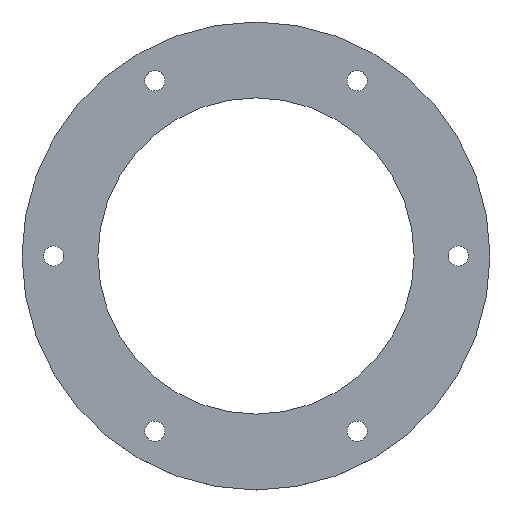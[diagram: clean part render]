
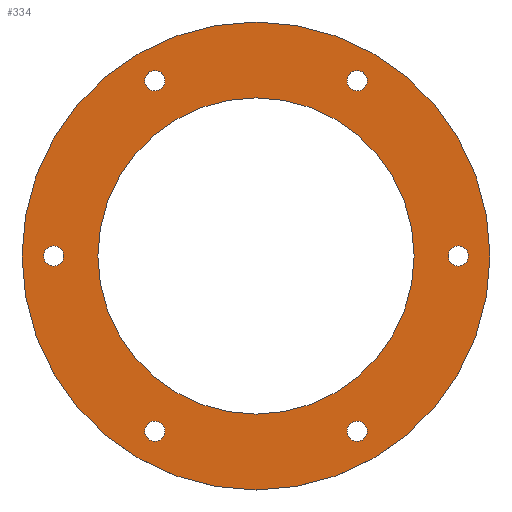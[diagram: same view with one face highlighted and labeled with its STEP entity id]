
A CAD part, top view. The second image highlights one B-rep face of the part: STEP entity #334.
In plain terms, the highlighted planar face has unit normal (0, 0, 1).
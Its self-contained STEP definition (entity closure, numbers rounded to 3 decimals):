
#24 = VERTEX_POINT('',#25);
#25 = CARTESIAN_POINT('',(-37.,0.,18.));
#32 = CYLINDRICAL_SURFACE('',#33,37.);
#33 = AXIS2_PLACEMENT_3D('',#34,#35,#36);
#34 = CARTESIAN_POINT('',(0.,0.,16.));
#35 = DIRECTION('',(0.,-0.,-1.));
#36 = DIRECTION('',(-1.,-0.,-0.));
#51 = EDGE_CURVE('',#24,#24,#52,.T.);
#52 = SURFACE_CURVE('',#53,(#58,#65),.PCURVE_S1.);
#53 = CIRCLE('',#54,37.);
#54 = AXIS2_PLACEMENT_3D('',#55,#56,#57);
#55 = CARTESIAN_POINT('',(0.,0.,18.));
#56 = DIRECTION('',(0.,0.,-1.));
#57 = DIRECTION('',(-1.,-0.,-0.));
#58 = PCURVE('',#32,#59);
#59 = DEFINITIONAL_REPRESENTATION('',(#60),#64);
#60 = LINE('',#61,#62);
#61 = CARTESIAN_POINT('',(0.,-2.));
#62 = VECTOR('',#63,1.);
#63 = DIRECTION('',(1.,0.));
#64 = ( GEOMETRIC_REPRESENTATION_CONTEXT(2) 
PARAMETRIC_REPRESENTATION_CONTEXT() REPRESENTATION_CONTEXT('2D SPACE',''
  ) );
#65 = PCURVE('',#66,#71);
#66 = PLANE('',#67);
#67 = AXIS2_PLACEMENT_3D('',#68,#69,#70);
#68 = CARTESIAN_POINT('',(0.,0.,18.));
#69 = DIRECTION('',(-0.,-0.,1.));
#70 = DIRECTION('',(1.,0.,0.));
#71 = DEFINITIONAL_REPRESENTATION('',(#72),#80);
#72 = ( BOUNDED_CURVE() B_SPLINE_CURVE(2,(#73,#74,#75,#76,#77,#78,#79),
.UNSPECIFIED.,.T.,.F.) B_SPLINE_CURVE_WITH_KNOTS((1,2,2,2,2,1),(
    -2.094,0.,2.094,4.189,6.283,
8.378),.UNSPECIFIED.) CURVE() GEOMETRIC_REPRESENTATION_ITEM() 
RATIONAL_B_SPLINE_CURVE((1.,0.5,1.,0.5,1.,0.5,1.)) REPRESENTATION_ITEM(
  '') );
#73 = CARTESIAN_POINT('',(-37.,0.));
#74 = CARTESIAN_POINT('',(-37.,64.086));
#75 = CARTESIAN_POINT('',(18.5,32.043));
#76 = CARTESIAN_POINT('',(74.,0.));
#77 = CARTESIAN_POINT('',(18.5,-32.043));
#78 = CARTESIAN_POINT('',(-37.,-64.086));
#79 = CARTESIAN_POINT('',(-37.,0.));
#80 = ( GEOMETRIC_REPRESENTATION_CONTEXT(2) 
PARAMETRIC_REPRESENTATION_CONTEXT() REPRESENTATION_CONTEXT('2D SPACE',''
  ) );
#137 = CYLINDRICAL_SURFACE('',#138,1.6);
#138 = AXIS2_PLACEMENT_3D('',#139,#140,#141);
#139 = CARTESIAN_POINT('',(16.,-27.713,11.));
#140 = DIRECTION('',(0.,-0.,-1.));
#141 = DIRECTION('',(-1.,-0.,-0.));
#168 = CYLINDRICAL_SURFACE('',#169,1.6);
#169 = AXIS2_PLACEMENT_3D('',#170,#171,#172);
#170 = CARTESIAN_POINT('',(-16.,-27.713,11.));
#171 = DIRECTION('',(0.,-0.,-1.));
#172 = DIRECTION('',(-1.,-0.,-0.));
#199 = CYLINDRICAL_SURFACE('',#200,1.6);
#200 = AXIS2_PLACEMENT_3D('',#201,#202,#203);
#201 = CARTESIAN_POINT('',(32.,0.,11.));
#202 = DIRECTION('',(0.,-0.,-1.));
#203 = DIRECTION('',(-1.,-0.,-0.));
#230 = CYLINDRICAL_SURFACE('',#231,1.6);
#231 = AXIS2_PLACEMENT_3D('',#232,#233,#234);
#232 = CARTESIAN_POINT('',(16.,27.713,11.));
#233 = DIRECTION('',(0.,-0.,-1.));
#234 = DIRECTION('',(-1.,-0.,-0.));
#261 = CYLINDRICAL_SURFACE('',#262,25.);
#262 = AXIS2_PLACEMENT_3D('',#263,#264,#265);
#263 = CARTESIAN_POINT('',(0.,0.,15.));
#264 = DIRECTION('',(0.,-0.,-1.));
#265 = DIRECTION('',(-1.,-0.,-0.));
#292 = CYLINDRICAL_SURFACE('',#293,1.6);
#293 = AXIS2_PLACEMENT_3D('',#294,#295,#296);
#294 = CARTESIAN_POINT('',(-32.,0.,11.));
#295 = DIRECTION('',(0.,-0.,-1.));
#296 = DIRECTION('',(-1.,-0.,-0.));
#323 = CYLINDRICAL_SURFACE('',#324,1.6);
#324 = AXIS2_PLACEMENT_3D('',#325,#326,#327);
#325 = CARTESIAN_POINT('',(-16.,27.713,11.));
#326 = DIRECTION('',(0.,-0.,-1.));
#327 = DIRECTION('',(-1.,-0.,-0.));
#334 = ADVANCED_FACE('',(#335,#338,#364,#390,#416,#442,#468,#494),#66,
  .T.);
#335 = FACE_BOUND('',#336,.F.);
#336 = EDGE_LOOP('',(#337));
#337 = ORIENTED_EDGE('',*,*,#51,.T.);
#338 = FACE_BOUND('',#339,.F.);
#339 = EDGE_LOOP('',(#340));
#340 = ORIENTED_EDGE('',*,*,#341,.T.);
#341 = EDGE_CURVE('',#342,#342,#344,.T.);
#342 = VERTEX_POINT('',#343);
#343 = CARTESIAN_POINT('',(14.4,-27.713,18.));
#344 = SURFACE_CURVE('',#345,(#350,#357),.PCURVE_S1.);
#345 = CIRCLE('',#346,1.6);
#346 = AXIS2_PLACEMENT_3D('',#347,#348,#349);
#347 = CARTESIAN_POINT('',(16.,-27.713,18.));
#348 = DIRECTION('',(0.,0.,1.));
#349 = DIRECTION('',(-1.,-0.,-0.));
#350 = PCURVE('',#66,#351);
#351 = DEFINITIONAL_REPRESENTATION('',(#352),#356);
#352 = CIRCLE('',#353,1.6);
#353 = AXIS2_PLACEMENT_2D('',#354,#355);
#354 = CARTESIAN_POINT('',(16.,-27.713));
#355 = DIRECTION('',(-1.,0.));
#356 = ( GEOMETRIC_REPRESENTATION_CONTEXT(2) 
PARAMETRIC_REPRESENTATION_CONTEXT() REPRESENTATION_CONTEXT('2D SPACE',''
  ) );
#357 = PCURVE('',#137,#358);
#358 = DEFINITIONAL_REPRESENTATION('',(#359),#363);
#359 = LINE('',#360,#361);
#360 = CARTESIAN_POINT('',(6.283,-7.));
#361 = VECTOR('',#362,1.);
#362 = DIRECTION('',(-1.,0.));
#363 = ( GEOMETRIC_REPRESENTATION_CONTEXT(2) 
PARAMETRIC_REPRESENTATION_CONTEXT() REPRESENTATION_CONTEXT('2D SPACE',''
  ) );
#364 = FACE_BOUND('',#365,.F.);
#365 = EDGE_LOOP('',(#366));
#366 = ORIENTED_EDGE('',*,*,#367,.T.);
#367 = EDGE_CURVE('',#368,#368,#370,.T.);
#368 = VERTEX_POINT('',#369);
#369 = CARTESIAN_POINT('',(-17.6,-27.713,18.));
#370 = SURFACE_CURVE('',#371,(#376,#383),.PCURVE_S1.);
#371 = CIRCLE('',#372,1.6);
#372 = AXIS2_PLACEMENT_3D('',#373,#374,#375);
#373 = CARTESIAN_POINT('',(-16.,-27.713,18.));
#374 = DIRECTION('',(0.,0.,1.));
#375 = DIRECTION('',(-1.,-0.,-0.));
#376 = PCURVE('',#66,#377);
#377 = DEFINITIONAL_REPRESENTATION('',(#378),#382);
#378 = CIRCLE('',#379,1.6);
#379 = AXIS2_PLACEMENT_2D('',#380,#381);
#380 = CARTESIAN_POINT('',(-16.,-27.713));
#381 = DIRECTION('',(-1.,0.));
#382 = ( GEOMETRIC_REPRESENTATION_CONTEXT(2) 
PARAMETRIC_REPRESENTATION_CONTEXT() REPRESENTATION_CONTEXT('2D SPACE',''
  ) );
#383 = PCURVE('',#168,#384);
#384 = DEFINITIONAL_REPRESENTATION('',(#385),#389);
#385 = LINE('',#386,#387);
#386 = CARTESIAN_POINT('',(6.283,-7.));
#387 = VECTOR('',#388,1.);
#388 = DIRECTION('',(-1.,0.));
#389 = ( GEOMETRIC_REPRESENTATION_CONTEXT(2) 
PARAMETRIC_REPRESENTATION_CONTEXT() REPRESENTATION_CONTEXT('2D SPACE',''
  ) );
#390 = FACE_BOUND('',#391,.F.);
#391 = EDGE_LOOP('',(#392));
#392 = ORIENTED_EDGE('',*,*,#393,.T.);
#393 = EDGE_CURVE('',#394,#394,#396,.T.);
#394 = VERTEX_POINT('',#395);
#395 = CARTESIAN_POINT('',(30.4,0.,18.));
#396 = SURFACE_CURVE('',#397,(#402,#409),.PCURVE_S1.);
#397 = CIRCLE('',#398,1.6);
#398 = AXIS2_PLACEMENT_3D('',#399,#400,#401);
#399 = CARTESIAN_POINT('',(32.,0.,18.));
#400 = DIRECTION('',(0.,0.,1.));
#401 = DIRECTION('',(-1.,-0.,-0.));
#402 = PCURVE('',#66,#403);
#403 = DEFINITIONAL_REPRESENTATION('',(#404),#408);
#404 = CIRCLE('',#405,1.6);
#405 = AXIS2_PLACEMENT_2D('',#406,#407);
#406 = CARTESIAN_POINT('',(32.,0.));
#407 = DIRECTION('',(-1.,0.));
#408 = ( GEOMETRIC_REPRESENTATION_CONTEXT(2) 
PARAMETRIC_REPRESENTATION_CONTEXT() REPRESENTATION_CONTEXT('2D SPACE',''
  ) );
#409 = PCURVE('',#199,#410);
#410 = DEFINITIONAL_REPRESENTATION('',(#411),#415);
#411 = LINE('',#412,#413);
#412 = CARTESIAN_POINT('',(6.283,-7.));
#413 = VECTOR('',#414,1.);
#414 = DIRECTION('',(-1.,0.));
#415 = ( GEOMETRIC_REPRESENTATION_CONTEXT(2) 
PARAMETRIC_REPRESENTATION_CONTEXT() REPRESENTATION_CONTEXT('2D SPACE',''
  ) );
#416 = FACE_BOUND('',#417,.F.);
#417 = EDGE_LOOP('',(#418));
#418 = ORIENTED_EDGE('',*,*,#419,.T.);
#419 = EDGE_CURVE('',#420,#420,#422,.T.);
#420 = VERTEX_POINT('',#421);
#421 = CARTESIAN_POINT('',(14.4,27.713,18.));
#422 = SURFACE_CURVE('',#423,(#428,#435),.PCURVE_S1.);
#423 = CIRCLE('',#424,1.6);
#424 = AXIS2_PLACEMENT_3D('',#425,#426,#427);
#425 = CARTESIAN_POINT('',(16.,27.713,18.));
#426 = DIRECTION('',(0.,0.,1.));
#427 = DIRECTION('',(-1.,-0.,-0.));
#428 = PCURVE('',#66,#429);
#429 = DEFINITIONAL_REPRESENTATION('',(#430),#434);
#430 = CIRCLE('',#431,1.6);
#431 = AXIS2_PLACEMENT_2D('',#432,#433);
#432 = CARTESIAN_POINT('',(16.,27.713));
#433 = DIRECTION('',(-1.,0.));
#434 = ( GEOMETRIC_REPRESENTATION_CONTEXT(2) 
PARAMETRIC_REPRESENTATION_CONTEXT() REPRESENTATION_CONTEXT('2D SPACE',''
  ) );
#435 = PCURVE('',#230,#436);
#436 = DEFINITIONAL_REPRESENTATION('',(#437),#441);
#437 = LINE('',#438,#439);
#438 = CARTESIAN_POINT('',(6.283,-7.));
#439 = VECTOR('',#440,1.);
#440 = DIRECTION('',(-1.,0.));
#441 = ( GEOMETRIC_REPRESENTATION_CONTEXT(2) 
PARAMETRIC_REPRESENTATION_CONTEXT() REPRESENTATION_CONTEXT('2D SPACE',''
  ) );
#442 = FACE_BOUND('',#443,.F.);
#443 = EDGE_LOOP('',(#444));
#444 = ORIENTED_EDGE('',*,*,#445,.T.);
#445 = EDGE_CURVE('',#446,#446,#448,.T.);
#446 = VERTEX_POINT('',#447);
#447 = CARTESIAN_POINT('',(-25.,0.,18.));
#448 = SURFACE_CURVE('',#449,(#454,#461),.PCURVE_S1.);
#449 = CIRCLE('',#450,25.);
#450 = AXIS2_PLACEMENT_3D('',#451,#452,#453);
#451 = CARTESIAN_POINT('',(0.,0.,18.));
#452 = DIRECTION('',(0.,0.,1.));
#453 = DIRECTION('',(-1.,-0.,-0.));
#454 = PCURVE('',#66,#455);
#455 = DEFINITIONAL_REPRESENTATION('',(#456),#460);
#456 = CIRCLE('',#457,25.);
#457 = AXIS2_PLACEMENT_2D('',#458,#459);
#458 = CARTESIAN_POINT('',(0.,0.));
#459 = DIRECTION('',(-1.,0.));
#460 = ( GEOMETRIC_REPRESENTATION_CONTEXT(2) 
PARAMETRIC_REPRESENTATION_CONTEXT() REPRESENTATION_CONTEXT('2D SPACE',''
  ) );
#461 = PCURVE('',#261,#462);
#462 = DEFINITIONAL_REPRESENTATION('',(#463),#467);
#463 = LINE('',#464,#465);
#464 = CARTESIAN_POINT('',(6.283,-3.));
#465 = VECTOR('',#466,1.);
#466 = DIRECTION('',(-1.,0.));
#467 = ( GEOMETRIC_REPRESENTATION_CONTEXT(2) 
PARAMETRIC_REPRESENTATION_CONTEXT() REPRESENTATION_CONTEXT('2D SPACE',''
  ) );
#468 = FACE_BOUND('',#469,.F.);
#469 = EDGE_LOOP('',(#470));
#470 = ORIENTED_EDGE('',*,*,#471,.T.);
#471 = EDGE_CURVE('',#472,#472,#474,.T.);
#472 = VERTEX_POINT('',#473);
#473 = CARTESIAN_POINT('',(-33.6,0.,18.));
#474 = SURFACE_CURVE('',#475,(#480,#487),.PCURVE_S1.);
#475 = CIRCLE('',#476,1.6);
#476 = AXIS2_PLACEMENT_3D('',#477,#478,#479);
#477 = CARTESIAN_POINT('',(-32.,0.,18.));
#478 = DIRECTION('',(0.,0.,1.));
#479 = DIRECTION('',(-1.,-0.,-0.));
#480 = PCURVE('',#66,#481);
#481 = DEFINITIONAL_REPRESENTATION('',(#482),#486);
#482 = CIRCLE('',#483,1.6);
#483 = AXIS2_PLACEMENT_2D('',#484,#485);
#484 = CARTESIAN_POINT('',(-32.,0.));
#485 = DIRECTION('',(-1.,0.));
#486 = ( GEOMETRIC_REPRESENTATION_CONTEXT(2) 
PARAMETRIC_REPRESENTATION_CONTEXT() REPRESENTATION_CONTEXT('2D SPACE',''
  ) );
#487 = PCURVE('',#292,#488);
#488 = DEFINITIONAL_REPRESENTATION('',(#489),#493);
#489 = LINE('',#490,#491);
#490 = CARTESIAN_POINT('',(6.283,-7.));
#491 = VECTOR('',#492,1.);
#492 = DIRECTION('',(-1.,0.));
#493 = ( GEOMETRIC_REPRESENTATION_CONTEXT(2) 
PARAMETRIC_REPRESENTATION_CONTEXT() REPRESENTATION_CONTEXT('2D SPACE',''
  ) );
#494 = FACE_BOUND('',#495,.F.);
#495 = EDGE_LOOP('',(#496));
#496 = ORIENTED_EDGE('',*,*,#497,.T.);
#497 = EDGE_CURVE('',#498,#498,#500,.T.);
#498 = VERTEX_POINT('',#499);
#499 = CARTESIAN_POINT('',(-17.6,27.713,18.));
#500 = SURFACE_CURVE('',#501,(#506,#513),.PCURVE_S1.);
#501 = CIRCLE('',#502,1.6);
#502 = AXIS2_PLACEMENT_3D('',#503,#504,#505);
#503 = CARTESIAN_POINT('',(-16.,27.713,18.));
#504 = DIRECTION('',(0.,0.,1.));
#505 = DIRECTION('',(-1.,-0.,-0.));
#506 = PCURVE('',#66,#507);
#507 = DEFINITIONAL_REPRESENTATION('',(#508),#512);
#508 = CIRCLE('',#509,1.6);
#509 = AXIS2_PLACEMENT_2D('',#510,#511);
#510 = CARTESIAN_POINT('',(-16.,27.713));
#511 = DIRECTION('',(-1.,0.));
#512 = ( GEOMETRIC_REPRESENTATION_CONTEXT(2) 
PARAMETRIC_REPRESENTATION_CONTEXT() REPRESENTATION_CONTEXT('2D SPACE',''
  ) );
#513 = PCURVE('',#323,#514);
#514 = DEFINITIONAL_REPRESENTATION('',(#515),#519);
#515 = LINE('',#516,#517);
#516 = CARTESIAN_POINT('',(6.283,-7.));
#517 = VECTOR('',#518,1.);
#518 = DIRECTION('',(-1.,0.));
#519 = ( GEOMETRIC_REPRESENTATION_CONTEXT(2) 
PARAMETRIC_REPRESENTATION_CONTEXT() REPRESENTATION_CONTEXT('2D SPACE',''
  ) );
